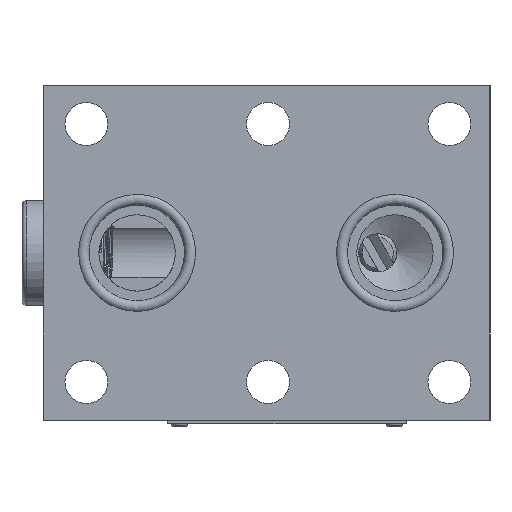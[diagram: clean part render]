
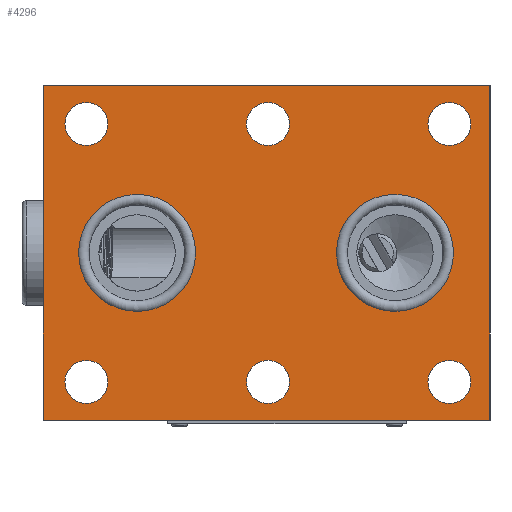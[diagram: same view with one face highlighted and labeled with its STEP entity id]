
A CAD part, front view. The second image highlights one B-rep face of the part: STEP entity #4296.
In plain terms, the highlighted planar face has unit normal (0, -1, 0).
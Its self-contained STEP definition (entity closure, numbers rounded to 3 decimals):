
#3240=FACE_BOUND('',#5557,.T.);
#3241=FACE_BOUND('',#5558,.T.);
#3242=FACE_BOUND('',#5559,.T.);
#3243=FACE_BOUND('',#5560,.T.);
#3244=FACE_BOUND('',#5561,.T.);
#3245=FACE_BOUND('',#5562,.T.);
#3246=FACE_BOUND('',#5563,.T.);
#3247=FACE_BOUND('',#5564,.T.);
#3248=FACE_BOUND('',#5565,.T.);
#3795=CIRCLE('',#12047,4.5);
#3797=CIRCLE('',#12050,4.5);
#3799=CIRCLE('',#12053,4.5);
#3801=CIRCLE('',#12056,4.5);
#3803=CIRCLE('',#12059,12.25);
#3804=CIRCLE('',#12060,12.25);
#3805=CIRCLE('',#12061,4.5);
#3806=CIRCLE('',#12062,4.5);
#4296=ADVANCED_FACE('',(#3240,#3241,#3242,#3243,#3244,#3245,#3246,#3247,
#3248),#4598,.T.);
#4598=PLANE('',#12063);
#5557=EDGE_LOOP('',(#8093));
#5558=EDGE_LOOP('',(#8094,#8095,#8096,#8097));
#5559=EDGE_LOOP('',(#8098));
#5560=EDGE_LOOP('',(#8099));
#5561=EDGE_LOOP('',(#8100));
#5562=EDGE_LOOP('',(#8101));
#5563=EDGE_LOOP('',(#8102));
#5564=EDGE_LOOP('',(#8103));
#5565=EDGE_LOOP('',(#8104));
#8093=ORIENTED_EDGE('',*,*,#10207,.T.);
#8094=ORIENTED_EDGE('',*,*,#10213,.F.);
#8095=ORIENTED_EDGE('',*,*,#10214,.F.);
#8096=ORIENTED_EDGE('',*,*,#10215,.T.);
#8097=ORIENTED_EDGE('',*,*,#10216,.T.);
#8098=ORIENTED_EDGE('',*,*,#10217,.F.);
#8099=ORIENTED_EDGE('',*,*,#10218,.F.);
#8100=ORIENTED_EDGE('',*,*,#10219,.F.);
#8101=ORIENTED_EDGE('',*,*,#10220,.F.);
#8102=ORIENTED_EDGE('',*,*,#10205,.T.);
#8103=ORIENTED_EDGE('',*,*,#10209,.F.);
#8104=ORIENTED_EDGE('',*,*,#10211,.T.);
#9045=VERTEX_POINT('',#46537);
#9047=VERTEX_POINT('',#46542);
#9049=VERTEX_POINT('',#46547);
#9051=VERTEX_POINT('',#46552);
#9053=VERTEX_POINT('',#46557);
#9054=VERTEX_POINT('',#46558);
#9055=VERTEX_POINT('',#46560);
#9056=VERTEX_POINT('',#46562);
#9057=VERTEX_POINT('',#46565);
#9058=VERTEX_POINT('',#46567);
#9059=VERTEX_POINT('',#46569);
#9060=VERTEX_POINT('',#46571);
#10205=EDGE_CURVE('',#9045,#9045,#3795,.T.);
#10207=EDGE_CURVE('',#9047,#9047,#3797,.T.);
#10209=EDGE_CURVE('',#9049,#9049,#3799,.T.);
#10211=EDGE_CURVE('',#9051,#9051,#3801,.T.);
#10213=EDGE_CURVE('',#9053,#9054,#10764,.T.);
#10214=EDGE_CURVE('',#9055,#9053,#10765,.T.);
#10215=EDGE_CURVE('',#9055,#9056,#10766,.T.);
#10216=EDGE_CURVE('',#9056,#9054,#10767,.T.);
#10217=EDGE_CURVE('',#9057,#9057,#3803,.T.);
#10218=EDGE_CURVE('',#9058,#9058,#3804,.T.);
#10219=EDGE_CURVE('',#9059,#9059,#3805,.T.);
#10220=EDGE_CURVE('',#9060,#9060,#3806,.T.);
#10764=LINE('',#46556,#11252);
#10765=LINE('',#46559,#11253);
#10766=LINE('',#46561,#11254);
#10767=LINE('',#46563,#11255);
#11252=VECTOR('',#14210,1.);
#11253=VECTOR('',#14211,1.);
#11254=VECTOR('',#14212,1.);
#11255=VECTOR('',#14213,1.);
#12047=AXIS2_PLACEMENT_3D('',#46536,#14186,#14187);
#12050=AXIS2_PLACEMENT_3D('',#46541,#14192,#14193);
#12053=AXIS2_PLACEMENT_3D('',#46546,#14198,#14199);
#12056=AXIS2_PLACEMENT_3D('',#46551,#14204,#14205);
#12059=AXIS2_PLACEMENT_3D('',#46564,#14214,#14215);
#12060=AXIS2_PLACEMENT_3D('',#46566,#14216,#14217);
#12061=AXIS2_PLACEMENT_3D('',#46568,#14218,#14219);
#12062=AXIS2_PLACEMENT_3D('',#46570,#14220,#14221);
#12063=AXIS2_PLACEMENT_3D('',#46572,#14222,#14223);
#14186=DIRECTION('',(0.,1.,0.));
#14187=DIRECTION('',(-1.,0.,0.));
#14192=DIRECTION('',(0.,1.,0.));
#14193=DIRECTION('',(-1.,0.,0.));
#14198=DIRECTION('',(0.,-1.,0.));
#14199=DIRECTION('',(-1.,0.,0.));
#14204=DIRECTION('',(0.,1.,0.));
#14205=DIRECTION('',(-1.,0.,0.));
#14210=DIRECTION('',(1.,0.,0.));
#14211=DIRECTION('',(0.,0.,1.));
#14212=DIRECTION('',(1.,0.,0.));
#14213=DIRECTION('',(0.,0.,1.));
#14214=DIRECTION('',(0.,-1.,0.));
#14215=DIRECTION('',(-1.,0.,0.));
#14216=DIRECTION('',(0.,-1.,0.));
#14217=DIRECTION('',(0.,0.,1.));
#14218=DIRECTION('',(0.,-1.,0.));
#14219=DIRECTION('',(-1.,0.,0.));
#14220=DIRECTION('',(0.,-1.,0.));
#14221=DIRECTION('',(-1.,0.,0.));
#14222=DIRECTION('',(0.,-1.,0.));
#14223=DIRECTION('',(0.,0.,1.));
#46536=CARTESIAN_POINT('',(-50.583,-16.663,120.5));
#46537=CARTESIAN_POINT('',(-55.083,-16.663,120.5));
#46541=CARTESIAN_POINT('',(-12.583,-16.663,120.5));
#46542=CARTESIAN_POINT('',(-17.083,-16.663,120.5));
#46546=CARTESIAN_POINT('',(-12.583,-16.663,66.5));
#46547=CARTESIAN_POINT('',(-17.083,-16.663,66.5));
#46551=CARTESIAN_POINT('',(-88.583,-16.663,120.5));
#46552=CARTESIAN_POINT('',(-93.083,-16.663,120.5));
#46556=CARTESIAN_POINT('',(-97.583,-16.663,128.5));
#46557=CARTESIAN_POINT('',(-97.583,-16.663,128.5));
#46558=CARTESIAN_POINT('',(-4.083,-16.663,128.5));
#46559=CARTESIAN_POINT('',(-97.583,-16.663,58.5));
#46560=CARTESIAN_POINT('',(-97.583,-16.663,58.5));
#46561=CARTESIAN_POINT('',(-97.583,-16.663,58.5));
#46562=CARTESIAN_POINT('',(-4.083,-16.663,58.5));
#46563=CARTESIAN_POINT('',(-4.083,-16.663,58.5));
#46564=CARTESIAN_POINT('',(-23.983,-16.663,93.5));
#46565=CARTESIAN_POINT('',(-36.233,-16.663,93.5));
#46566=CARTESIAN_POINT('',(-77.983,-16.663,93.5));
#46567=CARTESIAN_POINT('',(-77.983,-16.663,105.75));
#46568=CARTESIAN_POINT('',(-50.583,-16.663,66.5));
#46569=CARTESIAN_POINT('',(-55.083,-16.663,66.5));
#46570=CARTESIAN_POINT('',(-88.583,-16.663,66.5));
#46571=CARTESIAN_POINT('',(-93.083,-16.663,66.5));
#46572=CARTESIAN_POINT('',(-97.583,-16.663,58.5));
